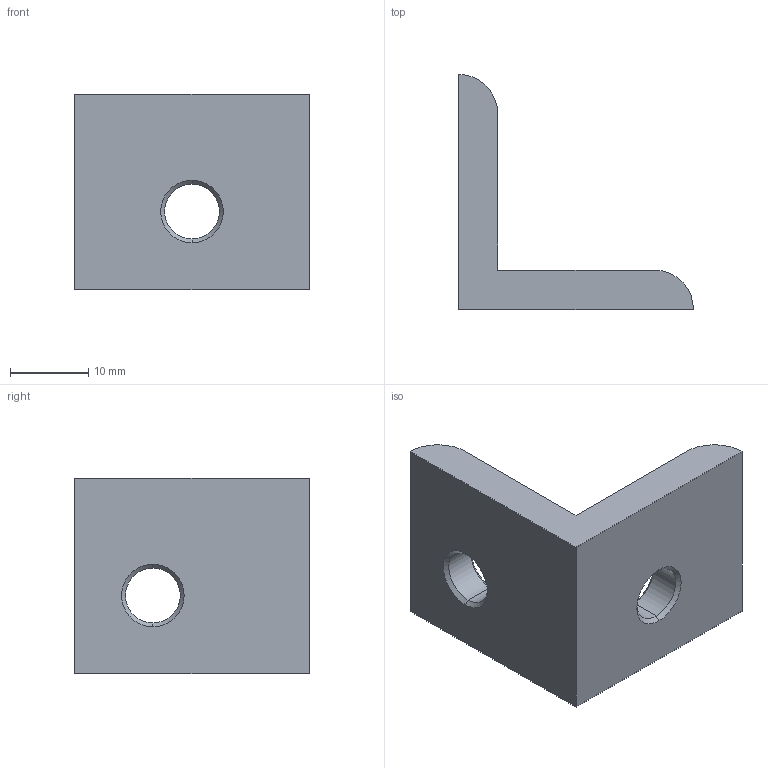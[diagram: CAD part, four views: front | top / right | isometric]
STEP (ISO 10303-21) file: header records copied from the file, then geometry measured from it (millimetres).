
FILE_DESCRIPTION (( 'STEP AP203' ), '1' );
FILE_NAME ('WL2530-6.STEP', '2024-02-17T07:19:06', ( '' ), ( '' ), 'SwSTEP 2.0', 'SolidWorks 2022', '' );
FILE_SCHEMA (( 'CONFIG_CONTROL_DESIGN' ));
Length unit declared in the file: millimetre
Products named in the file (1): WL2530-6
Bounding box: 30 x 30 x 25 mm (x, y, z)
Volume: 6210.4 mm3; surface area: 3462.7 mm2
Topology: 1 solids, 1 shells, 20 faces, 46 edges, 28 vertices
Faces by surface type: cone 8, cylinder 6, plane 6
Entity records: 651 total; most frequent: DIRECTION 108, CARTESIAN_POINT 95, ORIENTED_EDGE 92, EDGE_CURVE 46, AXIS2_PLACEMENT_3D 41, VERTEX_POINT 28, VECTOR 26, LINE 26
